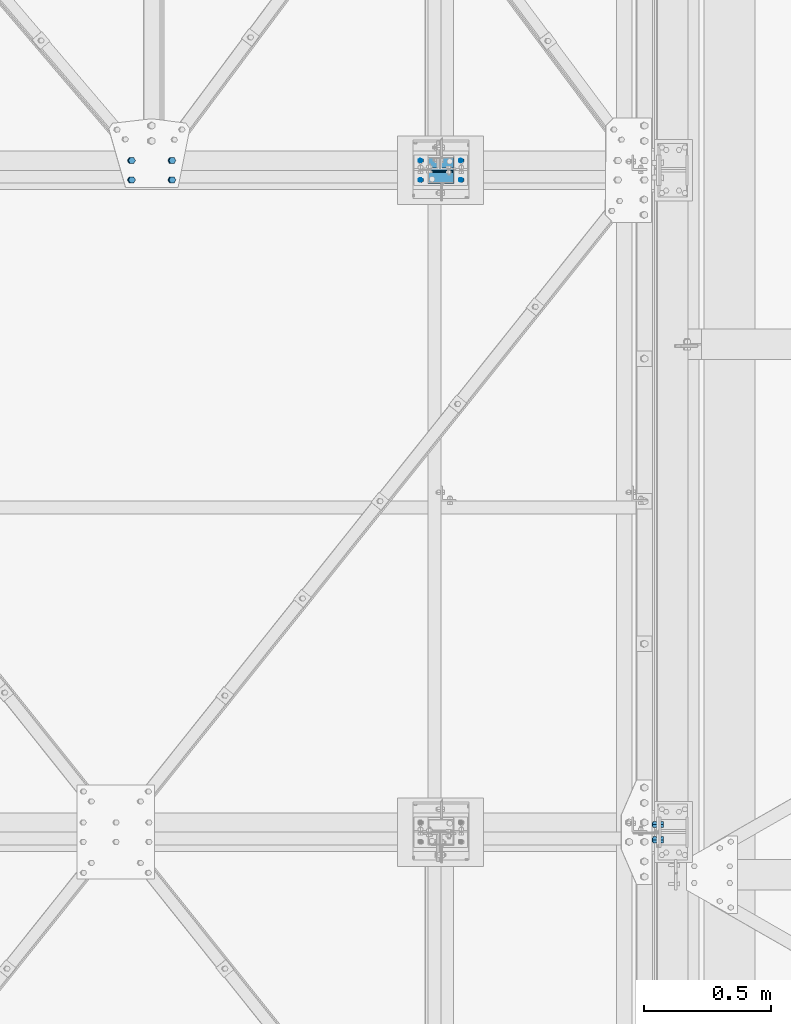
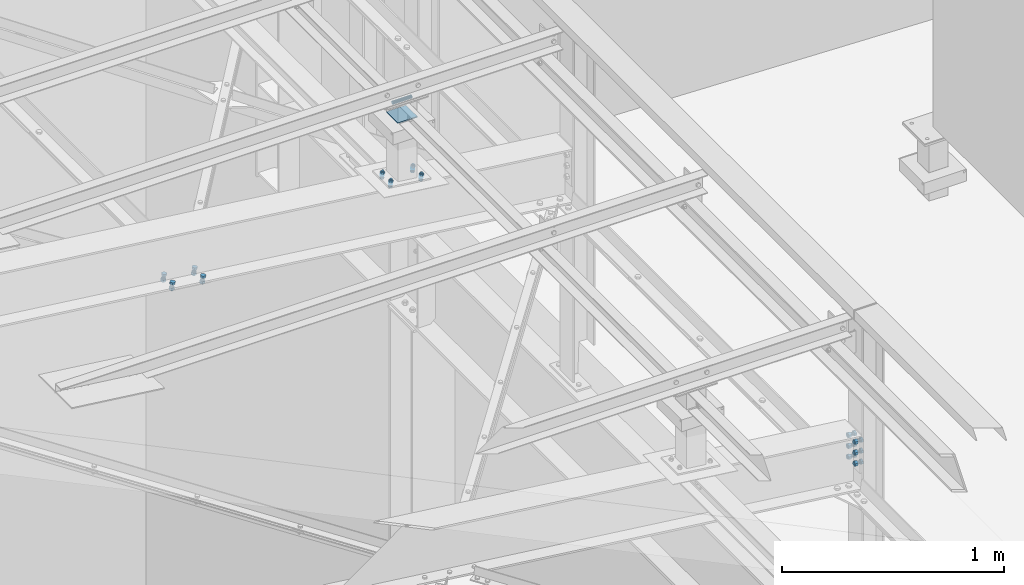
# One storey, part 380 of 3134: 6 mechanical fasteners, 5 elements without a shape of their own.
"""IFC2X3 building model written with IfcOpenShell, lengths in millimetres."""

from ifc_helpers import new_model, si_unit, frame, origin_with_axes, place, context, subcontext, project, spatial, faceted_brep, source, transform, mapped, material, type_object, element, aggregate, save


model = new_model("IFC2X3")

# Units and contexts
model_context = context("Model", 3, precision=1e-05, world=origin_with_axes())
body_context = subcontext(model_context, "Body", "Model", "MODEL_VIEW")
ifc_project = project(units=[si_unit("LENGTHUNIT", "METRE", prefix="MILLI"), si_unit("AREAUNIT", "SQUARE_METRE"), si_unit("VOLUMEUNIT", "CUBIC_METRE"), si_unit("MASSUNIT", "GRAM", prefix="KILO"), si_unit("TIMEUNIT", "SECOND"), si_unit("PLANEANGLEUNIT", "RADIAN"), si_unit("SOLIDANGLEUNIT", "STERADIAN"), si_unit("THERMODYNAMICTEMPERATUREUNIT", "DEGREE_CELSIUS"), si_unit("LUMINOUSINTENSITYUNIT", "LUMEN")], contexts=[model_context])

# Site, building, storey
site_placement = place(None, origin_with_axes())
site = spatial("IfcSite", under=ifc_project, at=site_placement, CompositionType="ELEMENT")
building_placement = place(site_placement, origin_with_axes())
building = spatial("IfcBuilding", under=site, at=building_placement, Name="Undefined", CompositionType="ELEMENT")
storey_placement = place(building_placement, origin_with_axes())
storey = spatial("IfcBuildingStorey", under=building, at=storey_placement, Name="Undefined", CompositionType="ELEMENT", Elevation=0.0)

# Assembly, mechanical fastener
assembly_1_placement = place(storey_placement, origin_with_axes())
assembly_1 = element("IfcElementAssembly", 1, at=assembly_1_placement, inside=storey, AssemblyPlace="NOTDEFINED", PredefinedType="RIGID_FRAME")
ifc_material_1 = material(Name="8.8")
mechanical_fastener_type = type_object("IfcMechanicalFastenerType", Name="Bolt assembly")
shared_shape_1 = source(origin_with_axes(), body_context, "Body", "Brep", [
    faceted_brep([(7.0, 13.0000253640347, 0.0), (6.06217782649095, 13.0000253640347, 3.50000000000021), (3.49999999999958, 13.0000253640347, 6.06217782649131), (-7.25435187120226e-13, 13.0000253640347, 7.0), (-3.50000000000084, 13.0000253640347, 6.06217782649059), (-6.06217782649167, 13.0000253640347, 3.49999999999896), (-7.0, 13.0000253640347, -1.45087037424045e-12), (-6.06217782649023, 13.0000253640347, -3.50000000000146), (-3.49999999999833, 13.0000253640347, -6.06217782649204), (2.1685340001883e-12, 13.0000253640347, -7.0), (3.50000000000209, 13.0000253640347, -6.06217782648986), (6.0621778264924, 13.0000253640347, -3.4999999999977), (6.0621778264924, 15.0999999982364, -3.4999999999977), (3.50000000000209, 15.0999999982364, -6.06217782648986), (2.1685340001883e-12, 15.0999999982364, -7.0), (-3.49999999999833, 15.0999999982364, -6.06217782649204), (-6.06217782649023, 15.0999999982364, -3.50000000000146), (-7.0, 15.0999999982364, -1.45087037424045e-12), (-6.06217782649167, 15.0999999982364, 3.49999999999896), (-3.50000000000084, 15.0999999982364, 6.06217782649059), (-7.25435187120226e-13, 15.0999999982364, 7.0), (3.49999999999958, 15.0999999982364, 6.06217782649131), (6.06217782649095, 15.0999999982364, 3.50000000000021), (7.0, 15.0999999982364, 0.0)], [[[0, 1, 2, 3, 4, 5, 6, 7, 8, 9, 10, 11]], [[12, 13, 14, 15, 16, 17, 18, 19, 20, 21, 22, 23]], [[0, 23, 22, 1]], [[1, 22, 21, 2]], [[2, 21, 20, 3]], [[3, 20, 19, 4]], [[4, 19, 18, 5]], [[5, 18, 17, 6]], [[6, 17, 16, 7]], [[7, 16, 15, 8]], [[8, 15, 14, 9]], [[9, 14, 13, 10]], [[10, 13, 12, 11]], [[11, 12, 23, 0]]]),
])
mechanical_fastener_1_placement = place(assembly_1_placement, frame((70899.2096374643, 24688.0, 5396.76588730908), z_axis=(-0.992631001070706, 0.0, 0.121176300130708), x_axis=(0.0, -1.0, 0.0)))
mechanical_fastener_1 = element("IfcMechanicalFastener", 2, at=mechanical_fastener_1_placement, type_object=mechanical_fastener_type, material=ifc_material_1, Name="Bolt assembly", NominalDiameter=12.0, NominalLength=2.0, context=body_context, shape_type="MappedRepresentation", body=[
    mapped(shared_shape_1, transform((0.0, -5.32963895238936e-10, -79.9999999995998))),
    mapped(shared_shape_1, transform((76.0, -5.32963895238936e-10, -79.9999999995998))),
    mapped(shared_shape_1, transform((0.0, 5.3114490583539e-10, 79.9999999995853))),
    mapped(shared_shape_1, transform((76.0, 5.3114490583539e-10, 79.9999999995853))),
])
aggregate(assembly_1, [mechanical_fastener_1])

# Assembly, mechanical fasteners
assembly_2_placement = place(storey_placement, origin_with_axes())
assembly_2 = element("IfcElementAssembly", 3, at=assembly_2_placement, inside=storey, AssemblyPlace="NOTDEFINED", PredefinedType="RIGID_FRAME")
shared_shape_2 = source(origin_with_axes(), body_context, "Body", "Brep", [
    faceted_brep([(9.0, -50.0, 0.0), (7.79422863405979, -50.0, 4.50000000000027), (4.49999999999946, -50.0, 7.79422863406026), (-9.3270238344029e-13, -50.0, 9.0), (-4.50000000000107, -50.0, 7.79422863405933), (-7.79422863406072, -50.0, 4.49999999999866), (-9.0, -50.0, -1.86540476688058e-12), (-7.79422863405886, -50.0, -4.50000000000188), (-4.49999999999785, -50.0, -7.79422863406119), (2.78811514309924e-12, -50.0, -9.0), (4.50000000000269, -50.0, -7.7942286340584), (7.79422863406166, -50.0, -4.49999999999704), (7.79422863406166, 50.1, -4.49999999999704), (4.50000000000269, 50.1, -7.7942286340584), (2.78811514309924e-12, 50.1, -9.0), (-4.49999999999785, 50.1, -7.79422863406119), (-7.79422863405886, 50.1, -4.50000000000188), (-9.0, 50.1, -1.86540476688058e-12), (-7.79422863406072, 50.1, 4.49999999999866), (-4.50000000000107, 50.1, 7.79422863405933), (-9.3270238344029e-13, 50.1, 9.0), (4.49999999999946, 50.1, 7.79422863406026), (7.79422863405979, 50.1, 4.50000000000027), (9.0, 50.1, 0.0)], [[[0, 1, 2, 3, 4, 5, 6, 7, 8, 9, 10, 11]], [[12, 13, 14, 15, 16, 17, 18, 19, 20, 21, 22, 23]], [[0, 23, 22, 1]], [[1, 22, 21, 2]], [[2, 21, 20, 3]], [[3, 20, 19, 4]], [[4, 19, 18, 5]], [[5, 18, 17, 6]], [[6, 17, 16, 7]], [[7, 16, 15, 8]], [[8, 15, 14, 9]], [[9, 14, 13, 10]], [[10, 13, 12, 11]], [[11, 12, 23, 0]]]),
])
mechanical_fastener_2_placement = place(assembly_2_placement, frame((70902.0, 24650.0, 5830.0), z_axis=(0.0, 1.0, 0.0), x_axis=(0.0, 0.0, 1.0)))
mechanical_fastener_2 = element("IfcMechanicalFastener", 4, at=mechanical_fastener_2_placement, type_object=mechanical_fastener_type, material=ifc_material_1, Name="Bolt assembly", NominalDiameter=16.0, NominalLength=100.0, context=body_context, shape_type="MappedRepresentation", body=[
    mapped(shared_shape_2, transform((0.0, 0.0, 0.0))),
])
ifc_material_2 = material(Name="6.8")
shared_shape_3 = source(origin_with_axes(), body_context, "Body", "Brep", [
    faceted_brep([(51.5, 1.36424205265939e-12, 50.0), (51.3858192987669, 1.36424205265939e-12, 50.5740251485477), (51.0606601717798, 1.36424205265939e-12, 51.0606601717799), (50.5740251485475, 1.36424205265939e-12, 51.385819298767), (-50.0000000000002, 1.36424205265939e-12, 51.5), (-50.7500000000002, 1.36424205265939e-12, 51.2990381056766), (-51.2990381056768, 1.36424205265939e-12, 50.7499999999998), (-51.5, 1.36424205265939e-12, 49.9999999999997), (-51.5, 1.36424205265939e-12, -50.0000000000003), (-51.2990381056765, 1.36424205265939e-12, -50.7500000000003), (-50.7499999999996, 1.36424205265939e-12, -51.2990381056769), (-49.9999999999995, 1.36424205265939e-12, -51.5), (50.0000000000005, 1.36424205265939e-12, -51.5), (50.7500000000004, 1.36424205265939e-12, -51.2990381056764), (51.2990381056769, 1.36424205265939e-12, -50.7499999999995), (51.5, 1.36424205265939e-12, -49.9999999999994), (51.5, 5.10000000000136, -49.9999999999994), (51.2990381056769, 5.10000000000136, -50.7499999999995), (50.7500000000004, 5.10000000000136, -51.2990381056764), (50.0000000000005, 5.10000000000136, -51.5), (-49.9999999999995, 5.10000000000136, -51.5), (-50.7499999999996, 5.10000000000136, -51.2990381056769), (-51.2990381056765, 5.10000000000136, -50.7500000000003), (-51.5, 5.10000000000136, -50.0000000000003), (-51.5, 5.10000000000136, 49.9999999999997), (-51.2990381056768, 5.10000000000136, 50.7499999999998), (-50.7500000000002, 5.10000000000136, 51.2990381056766), (-50.0000000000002, 5.10000000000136, 51.5), (50.5740251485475, 5.10000000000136, 51.385819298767), (51.0606601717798, 5.10000000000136, 51.0606601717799), (51.3858192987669, 5.10000000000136, 50.5740251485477), (51.5, 5.10000000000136, 50.0)], [[[0, 1, 2, 3, 4, 5, 6, 7, 8, 9, 10, 11, 12, 13, 14, 15]], [[16, 17, 18, 19, 20, 21, 22, 23, 24, 25, 26, 27, 28, 29, 30, 31]], [[0, 31, 30, 1]], [[1, 30, 29, 2]], [[2, 29, 28, 3]], [[3, 28, 27, 4]], [[4, 27, 26, 5]], [[5, 26, 25, 6]], [[6, 25, 24, 7]], [[7, 24, 23, 8]], [[8, 23, 22, 9]], [[9, 22, 21, 10]], [[10, 21, 20, 11]], [[11, 20, 19, 12]], [[12, 19, 18, 13]], [[13, 18, 17, 14]], [[14, 17, 16, 15]], [[15, 16, 31, 0]]]),
])
mechanical_fastener_3_placement = place(assembly_2_placement, frame((70902.0, 24650.0, 5750.0), z_axis=(0.0, -1.0, 0.0), x_axis=(-1.0, 0.0, 0.0)))
mechanical_fastener_3 = element("IfcMechanicalFastener", 5, at=mechanical_fastener_3_placement, type_object=mechanical_fastener_type, material=ifc_material_2, Name="Bolt assembly", NominalDiameter=10.0, NominalLength=5.0, context=body_context, shape_type="MappedRepresentation", body=[
    mapped(shared_shape_3, transform((0.0, 0.0, 0.0))),
])
aggregate(assembly_2, [mechanical_fastener_2, mechanical_fastener_3])

# Assembly, mechanical fastener
assembly_3_placement = place(storey_placement, origin_with_axes())
assembly_3 = element("IfcElementAssembly", 6, at=assembly_3_placement, inside=storey, Name="HEA120", AssemblyPlace="NOTDEFINED", PredefinedType="RIGID_FRAME")
shared_shape_4 = source(origin_with_axes(), body_context, "Body", "Brep", [
    faceted_brep([(13.856406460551, -18.0, 0.0), (6.92820323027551, -18.0, 12.0), (-6.92820323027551, -18.0, 12.0), (-13.856406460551, -18.0, 1.69692038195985e-15), (-6.92820323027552, -18.0, -12.0), (6.9282032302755, -18.0, -12.0), (6.9282032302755, -7.99999766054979, -12.0), (-6.92820323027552, -7.99999766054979, -12.0), (-13.856406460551, -7.99999766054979, 1.69692038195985e-15), (-6.92820323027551, -7.99999766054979, 12.0), (6.92820323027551, -7.99999766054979, 12.0), (13.856406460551, -7.99999766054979, 0.0), (8.0, -8.0, 0.0), (6.92820323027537, -8.0, 4.00000000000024), (3.99999999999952, -8.0, 6.92820323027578), (-8.29068785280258e-13, -8.0, 8.0), (-4.00000000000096, -8.0, 6.92820323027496), (-6.9282032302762, -8.0, 3.99999999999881), (-8.0, -8.0, -1.65813757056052e-12), (-6.92820323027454, -8.0, -4.00000000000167), (-3.99999999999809, -8.0, -6.92820323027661), (2.47832457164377e-12, -8.0, -8.0), (4.00000000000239, -8.0, -6.92820323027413), (6.92820323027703, -8.0, -3.99999999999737), (6.92820323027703, 27.0, -3.99999999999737), (4.00000000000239, 27.0, -6.92820323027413), (2.47832457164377e-12, 27.0, -8.0), (-3.99999999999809, 27.0, -6.92820323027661), (-6.92820323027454, 27.0, -4.00000000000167), (-8.0, 27.0, -1.65813757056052e-12), (-6.9282032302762, 27.0, 3.99999999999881), (-4.00000000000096, 27.0, 6.92820323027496), (-8.29068785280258e-13, 27.0, 8.0), (3.99999999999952, 27.0, 6.92820323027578), (6.92820323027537, 27.0, 4.00000000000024), (8.0, 27.0, 0.0), (13.856406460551, 9.99999995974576, 0.0), (6.92820323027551, 9.99999995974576, 12.0), (-6.92820323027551, 9.99999995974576, 12.0), (-13.856406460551, 9.99999995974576, 1.69692038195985e-15), (-6.92820323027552, 9.99999995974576, -12.0), (6.9282032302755, 9.99999995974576, -12.0), (6.9282032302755, 22.9999913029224, -12.0), (-6.92820323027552, 22.9999913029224, -12.0), (-13.856406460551, 22.9999913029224, 1.69692038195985e-15), (-6.92820323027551, 22.9999913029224, 12.0), (6.92820323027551, 22.9999913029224, 12.0), (13.856406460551, 22.9999913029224, 0.0)], [[[0, 1, 2, 3, 4, 5]], [[6, 7, 8, 9, 10, 11]], [[0, 11, 10, 1]], [[1, 10, 9, 2]], [[2, 9, 8, 3]], [[3, 8, 7, 4]], [[4, 7, 6, 5]], [[5, 6, 11, 0]], [[12, 13, 14, 15, 16, 17, 18, 19, 20, 21, 22, 23]], [[24, 25, 26, 27, 28, 29, 30, 31, 32, 33, 34, 35]], [[12, 35, 34, 13]], [[13, 34, 33, 14]], [[14, 33, 32, 15]], [[15, 32, 31, 16]], [[16, 31, 30, 17]], [[17, 30, 29, 18]], [[18, 29, 28, 19]], [[19, 28, 27, 20]], [[20, 27, 26, 21]], [[21, 26, 25, 22]], [[22, 25, 24, 23]], [[23, 24, 35, 12]], [[36, 37, 38, 39, 40, 41]], [[42, 43, 44, 45, 46, 47]], [[36, 47, 46, 37]], [[37, 46, 45, 38]], [[38, 45, 44, 39]], [[39, 44, 43, 40]], [[40, 43, 42, 41]], [[41, 42, 47, 36]]]),
    faceted_brep([(9.0, -0.1, 0.0), (7.79422863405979, -0.1, 4.50000000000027), (4.49999999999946, -0.1, 7.79422863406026), (-9.3270238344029e-13, -0.1, 9.0), (-4.50000000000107, -0.1, 7.79422863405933), (-7.79422863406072, -0.1, 4.49999999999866), (-9.0, -0.1, -1.86540476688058e-12), (-7.79422863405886, -0.1, -4.50000000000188), (-4.49999999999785, -0.1, -7.79422863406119), (2.78811514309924e-12, -0.1, -9.0), (4.50000000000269, -0.1, -7.7942286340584), (7.79422863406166, -0.1, -4.49999999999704), (7.79422863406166, 9.99999995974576, -4.49999999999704), (4.50000000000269, 9.99999995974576, -7.7942286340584), (2.78811514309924e-12, 9.99999995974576, -9.0), (-4.49999999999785, 9.99999995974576, -7.79422863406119), (-7.79422863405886, 9.99999995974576, -4.50000000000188), (-9.0, 9.99999995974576, -1.86540476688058e-12), (-7.79422863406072, 9.99999995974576, 4.49999999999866), (-4.50000000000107, 9.99999995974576, 7.79422863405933), (-9.3270238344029e-13, 9.99999995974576, 9.0), (4.49999999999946, 9.99999995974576, 7.79422863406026), (7.79422863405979, 9.99999995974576, 4.50000000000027), (9.0, 9.99999995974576, 0.0), (9.0, -7.9, 0.0), (7.79422863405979, -7.9, 4.50000000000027), (4.49999999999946, -7.9, 7.79422863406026), (-9.3270238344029e-13, -7.9, 9.0), (-4.50000000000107, -7.9, 7.79422863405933), (-7.79422863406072, -7.9, 4.49999999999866), (-9.0, -7.9, -1.86540476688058e-12), (-7.79422863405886, -7.9, -4.50000000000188), (-4.49999999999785, -7.9, -7.79422863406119), (2.78811514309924e-12, -7.9, -9.0), (4.50000000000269, -7.9, -7.7942286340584), (7.79422863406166, -7.9, -4.49999999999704), (7.79422863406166, 0.100000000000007, -4.49999999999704), (4.50000000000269, 0.100000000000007, -7.7942286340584), (2.78811514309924e-12, 0.100000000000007, -9.0), (-4.49999999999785, 0.100000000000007, -7.79422863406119), (-7.79422863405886, 0.100000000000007, -4.50000000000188), (-9.0, 0.100000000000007, -1.86540476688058e-12), (-7.79422863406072, 0.100000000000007, 4.49999999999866), (-4.50000000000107, 0.100000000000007, 7.79422863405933), (-9.3270238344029e-13, 0.100000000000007, 9.0), (4.49999999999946, 0.100000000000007, 7.79422863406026), (7.79422863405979, 0.100000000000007, 4.50000000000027), (9.0, 0.100000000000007, 0.0)], [[[0, 1, 2, 3, 4, 5, 6, 7, 8, 9, 10, 11]], [[12, 13, 14, 15, 16, 17, 18, 19, 20, 21, 22, 23]], [[0, 23, 22, 1]], [[1, 22, 21, 2]], [[2, 21, 20, 3]], [[3, 20, 19, 4]], [[4, 19, 18, 5]], [[5, 18, 17, 6]], [[6, 17, 16, 7]], [[7, 16, 15, 8]], [[8, 15, 14, 9]], [[9, 14, 13, 10]], [[10, 13, 12, 11]], [[11, 12, 23, 0]], [[24, 25, 26, 27, 28, 29, 30, 31, 32, 33, 34, 35]], [[36, 37, 38, 39, 40, 41, 42, 43, 44, 45, 46, 47]], [[24, 47, 46, 25]], [[25, 46, 45, 26]], [[26, 45, 44, 27]], [[27, 44, 43, 28]], [[28, 43, 42, 29]], [[29, 42, 41, 30]], [[30, 41, 40, 31]], [[31, 40, 39, 32]], [[32, 39, 38, 33]], [[33, 38, 37, 34]], [[34, 37, 36, 35]], [[35, 36, 47, 24]]]),
])
mechanical_fastener_4_placement = place(assembly_3_placement, frame((71758.0000000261, 22050.0, 5251.2505303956), z_axis=(0.0, 1.0, 0.0), x_axis=(0.0, 0.0, -1.0)))
mechanical_fastener_4 = element("IfcMechanicalFastener", 7, at=mechanical_fastener_4_placement, type_object=mechanical_fastener_type, material=ifc_material_1, Name="Bolt assembly", NominalDiameter=16.0, NominalLength=35.0, context=body_context, shape_type="MappedRepresentation", body=[
    mapped(shared_shape_4, transform((0.0, 4.54747350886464e-13, -30.0000000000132))),
    mapped(shared_shape_4, transform((60.0, 0.0, -30.0))),
    mapped(shared_shape_4, transform((120.0, 0.0, -30.0))),
    mapped(shared_shape_4, transform((0.0, 4.54747350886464e-13, 30.0000000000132))),
    mapped(shared_shape_4, transform((60.0, 0.0, 30.0))),
    mapped(shared_shape_4, transform((120.0, 0.0, 30.0))),
])
aggregate(assembly_3, [mechanical_fastener_4])

assembly_4_placement = place(storey_placement, origin_with_axes())
assembly_4 = element("IfcElementAssembly", 8, at=assembly_4_placement, inside=storey, Name="300", AssemblyPlace="NOTDEFINED", PredefinedType="RIGID_FRAME")
shared_shape_5 = source(origin_with_axes(), body_context, "Body", "Brep", [
    faceted_brep([(10.9696551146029, -4.14256088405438, 0.0), (5.48482755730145, -4.14256088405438, 9.5), (-5.48482755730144, -4.14256088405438, 9.5), (-10.9696551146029, -4.14256088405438, 1.34339530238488e-15), (-5.48482755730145, -4.14256088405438, -9.5), (5.48482755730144, -4.14256088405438, -9.50000000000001), (5.48482755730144, 3.85743911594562, -9.50000000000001), (-5.48482755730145, 3.85743911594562, -9.5), (-10.9696551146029, 3.85743911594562, 1.34339530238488e-15), (-5.48482755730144, 3.85743911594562, 9.5), (5.48482755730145, 3.85743911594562, 9.5), (10.9696551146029, 3.85743911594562, 0.0), (6.0, 3.85743911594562, 0.0), (5.19615242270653, 3.85743911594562, 3.00000000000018), (2.99999999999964, 3.85743911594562, 5.19615242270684), (-6.21801588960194e-13, 3.85743911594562, 6.0), (-3.00000000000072, 3.85743911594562, 5.19615242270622), (-5.19615242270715, 3.85743911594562, 2.9999999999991), (-6.0, 3.85743911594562, -1.24360317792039e-12), (-5.19615242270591, 3.85743911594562, -3.00000000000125), (-2.99999999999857, 3.85743911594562, -5.19615242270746), (1.85874342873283e-12, 3.85743911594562, -6.0), (3.00000000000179, 3.85743911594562, -5.1961524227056), (5.19615242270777, 3.85743911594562, -2.99999999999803), (5.19615242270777, 38.8574391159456, -2.99999999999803), (3.00000000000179, 38.8574391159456, -5.1961524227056), (1.85874342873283e-12, 38.8574391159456, -6.0), (-2.99999999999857, 38.8574391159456, -5.19615242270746), (-5.19615242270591, 38.8574391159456, -3.00000000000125), (-6.0, 38.8574391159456, -1.24360317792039e-12), (-5.19615242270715, 38.8574391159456, 2.9999999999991), (-3.00000000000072, 38.8574391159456, 5.19615242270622), (-6.21801588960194e-13, 38.8574391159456, 6.0), (2.99999999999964, 38.8574391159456, 5.19615242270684), (5.19615242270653, 38.8574391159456, 3.00000000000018), (6.0, 38.8574391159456, 0.0), (10.9696551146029, 23.0139082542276, 0.0), (5.48482755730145, 23.0139082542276, 9.5), (-5.48482755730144, 23.0139082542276, 9.5), (-10.9696551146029, 23.0139082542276, 1.34339530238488e-15), (-5.48482755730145, 23.0139082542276, -9.5), (5.48482755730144, 23.0139082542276, -9.50000000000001), (5.48482755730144, 33.0139082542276, -9.50000000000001), (-5.48482755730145, 33.0139082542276, -9.5), (-10.9696551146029, 33.0139082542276, 1.34339530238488e-15), (-5.48482755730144, 33.0139082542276, 9.5), (5.48482755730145, 33.0139082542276, 9.5), (10.9696551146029, 33.0139082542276, 0.0)], [[[0, 1, 2, 3, 4, 5]], [[6, 7, 8, 9, 10, 11]], [[0, 11, 10, 1]], [[1, 10, 9, 2]], [[2, 9, 8, 3]], [[3, 8, 7, 4]], [[4, 7, 6, 5]], [[5, 6, 11, 0]], [[12, 13, 14, 15, 16, 17, 18, 19, 20, 21, 22, 23]], [[24, 25, 26, 27, 28, 29, 30, 31, 32, 33, 34, 35]], [[12, 35, 34, 13]], [[13, 34, 33, 14]], [[14, 33, 32, 15]], [[15, 32, 31, 16]], [[16, 31, 30, 17]], [[17, 30, 29, 18]], [[18, 29, 28, 19]], [[19, 28, 27, 20]], [[20, 27, 26, 21]], [[21, 26, 25, 22]], [[22, 25, 24, 23]], [[23, 24, 35, 12]], [[36, 37, 38, 39, 40, 41]], [[42, 43, 44, 45, 46, 47]], [[36, 47, 46, 37]], [[37, 46, 45, 38]], [[38, 45, 44, 39]], [[39, 44, 43, 40]], [[40, 43, 42, 41]], [[41, 42, 47, 36]]]),
    faceted_brep([(7.0, 14.9139082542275, 0.0), (6.06217782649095, 14.9139082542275, 3.50000000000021), (3.49999999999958, 14.9139082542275, 6.06217782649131), (-7.25435187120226e-13, 14.9139082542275, 7.0), (-3.50000000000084, 14.9139082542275, 6.06217782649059), (-6.06217782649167, 14.9139082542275, 3.49999999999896), (-7.0, 14.9139082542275, -1.45087037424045e-12), (-6.06217782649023, 14.9139082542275, -3.50000000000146), (-3.49999999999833, 14.9139082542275, -6.06217782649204), (2.1685340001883e-12, 14.9139082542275, -7.0), (3.50000000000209, 14.9139082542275, -6.06217782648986), (6.0621778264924, 14.9139082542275, -3.4999999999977), (6.0621778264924, 23.0139082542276, -3.4999999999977), (3.50000000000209, 23.0139082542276, -6.06217782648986), (2.1685340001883e-12, 23.0139082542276, -7.0), (-3.49999999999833, 23.0139082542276, -6.06217782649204), (-6.06217782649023, 23.0139082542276, -3.50000000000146), (-7.0, 23.0139082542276, -1.45087037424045e-12), (-6.06217782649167, 23.0139082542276, 3.49999999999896), (-3.50000000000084, 23.0139082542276, 6.06217782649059), (-7.25435187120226e-13, 23.0139082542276, 7.0), (3.49999999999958, 23.0139082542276, 6.06217782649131), (6.06217782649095, 23.0139082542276, 3.50000000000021), (7.0, 23.0139082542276, 0.0), (7.0, 3.95743911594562, 0.0), (6.06217782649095, 3.95743911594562, 3.50000000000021), (3.49999999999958, 3.95743911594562, 6.06217782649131), (-7.25435187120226e-13, 3.95743911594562, 7.0), (-3.50000000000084, 3.95743911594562, 6.06217782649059), (-6.06217782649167, 3.95743911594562, 3.49999999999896), (-7.0, 3.95743911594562, -1.45087037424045e-12), (-6.06217782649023, 3.95743911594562, -3.50000000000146), (-3.49999999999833, 3.95743911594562, -6.06217782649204), (2.1685340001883e-12, 3.95743911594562, -7.0), (3.50000000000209, 3.95743911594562, -6.06217782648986), (6.0621778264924, 3.95743911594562, -3.4999999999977), (6.0621778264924, 13.1574389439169, -3.4999999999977), (3.50000000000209, 13.1574389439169, -6.06217782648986), (2.1685340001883e-12, 13.1574389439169, -7.0), (-3.49999999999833, 13.1574389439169, -6.06217782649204), (-6.06217782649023, 13.1574389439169, -3.50000000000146), (-7.0, 13.1574389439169, -1.45087037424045e-12), (-6.06217782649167, 13.1574389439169, 3.49999999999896), (-3.50000000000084, 13.1574389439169, 6.06217782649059), (-7.25435187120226e-13, 13.1574389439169, 7.0), (3.49999999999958, 13.1574389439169, 6.06217782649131), (6.06217782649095, 13.1574389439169, 3.50000000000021), (7.0, 13.1574389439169, 0.0)], [[[0, 1, 2, 3, 4, 5, 6, 7, 8, 9, 10, 11]], [[12, 13, 14, 15, 16, 17, 18, 19, 20, 21, 22, 23]], [[0, 23, 22, 1]], [[1, 22, 21, 2]], [[2, 21, 20, 3]], [[3, 20, 19, 4]], [[4, 19, 18, 5]], [[5, 18, 17, 6]], [[6, 17, 16, 7]], [[7, 16, 15, 8]], [[8, 15, 14, 9]], [[9, 14, 13, 10]], [[10, 13, 12, 11]], [[11, 12, 23, 0]], [[24, 25, 26, 27, 28, 29, 30, 31, 32, 33, 34, 35]], [[36, 37, 38, 39, 40, 41, 42, 43, 44, 45, 46, 47]], [[24, 47, 46, 25]], [[25, 46, 45, 26]], [[26, 45, 44, 27]], [[27, 44, 43, 28]], [[28, 43, 42, 29]], [[29, 42, 41, 30]], [[30, 41, 40, 31]], [[31, 40, 39, 32]], [[32, 39, 38, 33]], [[33, 38, 37, 34]], [[34, 37, 36, 35]], [[35, 36, 47, 24]]]),
])
mechanical_fastener_5_placement = place(assembly_4_placement, frame((70899.2096374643, 24688.0, 5396.76588730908), z_axis=(-0.992631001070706, 0.0, 0.121176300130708), x_axis=(0.0, -1.0, 0.0)))
mechanical_fastener_5 = element("IfcMechanicalFastener", 9, at=mechanical_fastener_5_placement, type_object=mechanical_fastener_type, material=ifc_material_1, Name="Bolt assembly", NominalDiameter=12.0, NominalLength=35.0, context=body_context, shape_type="MappedRepresentation", body=[
    mapped(shared_shape_5, transform((0.0, -5.32963895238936e-10, -79.9999999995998))),
    mapped(shared_shape_5, transform((76.0, -5.32963895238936e-10, -79.9999999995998))),
    mapped(shared_shape_5, transform((0.0, 5.3114490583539e-10, 79.9999999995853))),
    mapped(shared_shape_5, transform((76.0, 5.3114490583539e-10, 79.9999999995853))),
])
aggregate(assembly_4, [mechanical_fastener_5])

assembly_5_placement = place(storey_placement, origin_with_axes())
assembly_5 = element("IfcElementAssembly", 10, at=assembly_5_placement, inside=storey, Name="PL8", AssemblyPlace="NOTDEFINED", PredefinedType="RIGID_FRAME")
shared_shape_6 = source(origin_with_axes(), body_context, "Body", "Brep", [
    faceted_brep([(13.856406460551, -23.2016612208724, 0.0), (6.92820323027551, -23.2016612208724, 12.0), (-6.92820323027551, -23.2016612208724, 12.0), (-13.856406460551, -23.2016612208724, 1.69692038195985e-15), (-6.92820323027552, -23.2016612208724, -12.0), (6.9282032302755, -23.2016612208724, -12.0), (6.9282032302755, -13.2016612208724, -12.0), (-6.92820323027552, -13.2016612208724, -12.0), (-13.856406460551, -13.2016612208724, 1.69692038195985e-15), (-6.92820323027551, -13.2016612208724, 12.0), (6.92820323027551, -13.2016612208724, 12.0), (13.856406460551, -13.2016612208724, 0.0), (8.0, -13.2016612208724, 0.0), (6.92820323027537, -13.2016612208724, 4.00000000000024), (3.99999999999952, -13.2016612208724, 6.92820323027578), (-8.29068785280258e-13, -13.2016612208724, 8.0), (-4.00000000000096, -13.2016612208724, 6.92820323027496), (-6.9282032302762, -13.2016612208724, 3.99999999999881), (-8.0, -13.2016612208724, -1.65813757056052e-12), (-6.92820323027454, -13.2016612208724, -4.00000000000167), (-3.99999999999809, -13.2016612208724, -6.92820323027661), (2.47832457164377e-12, -13.2016612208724, -8.0), (4.00000000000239, -13.2016612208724, -6.92820323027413), (6.92820323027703, -13.2016612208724, -3.99999999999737), (6.92820323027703, 21.7983387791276, -3.99999999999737), (4.00000000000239, 21.7983387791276, -6.92820323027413), (2.47832457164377e-12, 21.7983387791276, -8.0), (-3.99999999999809, 21.7983387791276, -6.92820323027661), (-6.92820323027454, 21.7983387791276, -4.00000000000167), (-8.0, 21.7983387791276, -1.65813757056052e-12), (-6.9282032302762, 21.7983387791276, 3.99999999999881), (-4.00000000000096, 21.7983387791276, 6.92820323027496), (-8.29068785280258e-13, 21.7983387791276, 8.0), (3.99999999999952, 21.7983387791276, 6.92820323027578), (6.92820323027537, 21.7983387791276, 4.00000000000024), (8.0, 21.7983387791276, 0.0), (13.856406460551, 3.99999999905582, 0.0), (6.92820323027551, 3.99999999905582, 12.0), (-6.92820323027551, 3.99999999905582, 12.0), (-13.856406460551, 3.99999999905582, 1.69692038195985e-15), (-6.92820323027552, 3.99999999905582, -12.0), (6.9282032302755, 3.99999999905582, -12.0), (6.9282032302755, 16.9999999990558, -12.0), (-6.92820323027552, 16.9999999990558, -12.0), (-13.856406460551, 16.9999999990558, 1.69692038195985e-15), (-6.92820323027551, 16.9999999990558, 12.0), (6.92820323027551, 16.9999999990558, 12.0), (13.856406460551, 16.9999999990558, 0.0)], [[[0, 1, 2, 3, 4, 5]], [[6, 7, 8, 9, 10, 11]], [[0, 11, 10, 1]], [[1, 10, 9, 2]], [[2, 9, 8, 3]], [[3, 8, 7, 4]], [[4, 7, 6, 5]], [[5, 6, 11, 0]], [[12, 13, 14, 15, 16, 17, 18, 19, 20, 21, 22, 23]], [[24, 25, 26, 27, 28, 29, 30, 31, 32, 33, 34, 35]], [[12, 35, 34, 13]], [[13, 34, 33, 14]], [[14, 33, 32, 15]], [[15, 32, 31, 16]], [[16, 31, 30, 17]], [[17, 30, 29, 18]], [[18, 29, 28, 19]], [[19, 28, 27, 20]], [[20, 27, 26, 21]], [[21, 26, 25, 22]], [[22, 25, 24, 23]], [[23, 24, 35, 12]], [[36, 37, 38, 39, 40, 41]], [[42, 43, 44, 45, 46, 47]], [[36, 47, 46, 37]], [[37, 46, 45, 38]], [[38, 45, 44, 39]], [[39, 44, 43, 40]], [[40, 43, 42, 41]], [[41, 42, 47, 36]]]),
    faceted_brep([(9.0, -13.1016612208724, 0.0), (7.79422863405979, -13.1016612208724, 4.50000000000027), (4.49999999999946, -13.1016612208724, 7.79422863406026), (-9.3270238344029e-13, -13.1016612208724, 9.0), (-4.50000000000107, -13.1016612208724, 7.79422863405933), (-7.79422863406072, -13.1016612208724, 4.49999999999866), (-9.0, -13.1016612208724, -1.86540476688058e-12), (-7.79422863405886, -13.1016612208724, -4.50000000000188), (-4.49999999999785, -13.1016612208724, -7.79422863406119), (2.78811514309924e-12, -13.1016612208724, -9.0), (4.50000000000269, -13.1016612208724, -7.7942286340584), (7.79422863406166, -13.1016612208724, -4.49999999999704), (7.79422863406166, -3.90166141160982, -4.49999999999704), (4.50000000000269, -3.90166141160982, -7.7942286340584), (2.78811514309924e-12, -3.90166141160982, -9.0), (-4.49999999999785, -3.90166141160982, -7.79422863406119), (-7.79422863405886, -3.90166141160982, -4.50000000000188), (-9.0, -3.90166141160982, -1.86540476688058e-12), (-7.79422863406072, -3.90166141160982, 4.49999999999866), (-4.50000000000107, -3.90166141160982, 7.79422863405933), (-9.3270238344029e-13, -3.90166141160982, 9.0), (4.49999999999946, -3.90166141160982, 7.79422863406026), (7.79422863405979, -3.90166141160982, 4.50000000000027), (9.0, -3.90166141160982, 0.0), (9.0, -4.10000000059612, 0.0), (7.79422863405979, -4.10000000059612, 4.50000000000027), (4.49999999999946, -4.10000000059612, 7.79422863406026), (-9.3270238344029e-13, -4.10000000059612, 9.0), (-4.50000000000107, -4.10000000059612, 7.79422863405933), (-7.79422863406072, -4.10000000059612, 4.49999999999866), (-9.0, -4.10000000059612, -1.86540476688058e-12), (-7.79422863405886, -4.10000000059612, -4.50000000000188), (-4.49999999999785, -4.10000000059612, -7.79422863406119), (2.78811514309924e-12, -4.10000000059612, -9.0), (4.50000000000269, -4.10000000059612, -7.7942286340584), (7.79422863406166, -4.10000000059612, -4.49999999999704), (7.79422863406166, 4.00000375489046, -4.49999999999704), (4.50000000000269, 4.00000375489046, -7.7942286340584), (2.78811514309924e-12, 4.00000375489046, -9.0), (-4.49999999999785, 4.00000375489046, -7.79422863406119), (-7.79422863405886, 4.00000375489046, -4.50000000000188), (-9.0, 4.00000375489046, -1.86540476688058e-12), (-7.79422863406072, 4.00000375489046, 4.49999999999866), (-4.50000000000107, 4.00000375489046, 7.79422863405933), (-9.3270238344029e-13, 4.00000375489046, 9.0), (4.49999999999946, 4.00000375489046, 7.79422863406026), (7.79422863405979, 4.00000375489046, 4.50000000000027), (9.0, 4.00000375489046, 0.0)], [[[0, 1, 2, 3, 4, 5, 6, 7, 8, 9, 10, 11]], [[12, 13, 14, 15, 16, 17, 18, 19, 20, 21, 22, 23]], [[0, 23, 22, 1]], [[1, 22, 21, 2]], [[2, 21, 20, 3]], [[3, 20, 19, 4]], [[4, 19, 18, 5]], [[5, 18, 17, 6]], [[6, 17, 16, 7]], [[7, 16, 15, 8]], [[8, 15, 14, 9]], [[9, 14, 13, 10]], [[10, 13, 12, 11]], [[11, 12, 23, 0]], [[24, 25, 26, 27, 28, 29, 30, 31, 32, 33, 34, 35]], [[36, 37, 38, 39, 40, 41, 42, 43, 44, 45, 46, 47]], [[24, 47, 46, 25]], [[25, 46, 45, 26]], [[26, 45, 44, 27]], [[27, 44, 43, 28]], [[28, 43, 42, 29]], [[29, 42, 41, 30]], [[30, 41, 40, 31]], [[31, 40, 39, 32]], [[32, 39, 38, 33]], [[33, 38, 37, 34]], [[34, 37, 36, 35]], [[35, 36, 47, 24]]]),
])
mechanical_fastener_6_placement = place(assembly_5_placement, frame((69844.4091895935, 24650.0000625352, 5235.52090036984), z_axis=(0.0, -1.0, 0.0), x_axis=(-0.992623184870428, 0.0, 0.121240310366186)))
mechanical_fastener_6 = element("IfcMechanicalFastener", 11, at=mechanical_fastener_6_placement, type_object=mechanical_fastener_type, material=ifc_material_1, Name="Bolt assembly", NominalDiameter=16.0, NominalLength=35.0, context=body_context, shape_type="MappedRepresentation", body=[
    mapped(shared_shape_6, transform((0.0, 0.0, -38.0))),
    mapped(shared_shape_6, transform((159.99999999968, -2.71938915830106e-10, -38.0))),
    mapped(shared_shape_6, transform((0.0, 0.0, 38.0))),
    mapped(shared_shape_6, transform((159.99999999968, -2.71938915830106e-10, 38.0))),
])
aggregate(assembly_5, [mechanical_fastener_6])

save(model, "model.ifc")
